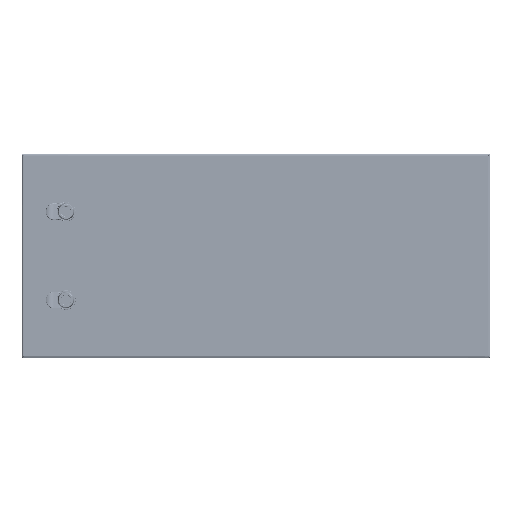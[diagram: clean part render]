
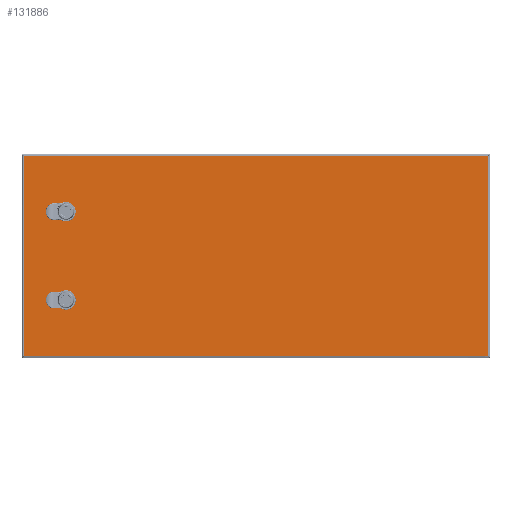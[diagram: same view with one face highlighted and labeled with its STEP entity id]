
A CAD part, top view. The second image highlights one B-rep face of the part: STEP entity #131886.
In plain terms, the highlighted planar face has unit normal (0, 0, 1).
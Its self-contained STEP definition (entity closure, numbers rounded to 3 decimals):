
#126016=CARTESIAN_POINT(' ',(389.389,172.733,269.003));
#126017=VERTEX_POINT(' ',#126016);
#126681=CARTESIAN_POINT(' ',(389.389,-166.667,269.003));
#126682=VERTEX_POINT(' ',#126681);
#127526=CARTESIAN_POINT(' ',(389.389,172.733,269.003));
#127531=DIRECTION(' ',(0.,-1.,0.));
#127536=VECTOR(' ',#127531,1.);
#127541=LINE('',#127526,#127536);
#127546=EDGE_CURVE(' ',#126017,#126682,#127541,.T.);
#129531=CARTESIAN_POINT(' ',(-399.011,-166.667,269.003));
#129532=VERTEX_POINT(' ',#129531);
#130071=CARTESIAN_POINT(' ',(-399.011,172.733,269.003));
#130072=VERTEX_POINT(' ',#130071);
#131756=DIRECTION(' ',(-0.,-0.,1.));
#131761=CARTESIAN_POINT(' ',(389.389,-166.667,269.003));
#131766=DIRECTION(' ',(0.,1.,0.));
#131771=AXIS2_PLACEMENT_3D(' ',#131761,#131756,#131766);
#131776=PLANE('NONE',#131771);
#131781=CARTESIAN_POINT(' ',(-399.011,-166.667,269.003));
#131786=DIRECTION(' ',(1.,0.,0.));
#131791=VECTOR(' ',#131786,1.);
#131796=LINE('',#131781,#131791);
#131801=EDGE_CURVE(' ',#129532,#126682,#131796,.T.);
#131806=ORIENTED_EDGE(' ',*,*,#131801,.T.);
#131811=ORIENTED_EDGE(' ',*,*,#127546,.F.);
#131816=CARTESIAN_POINT(' ',(389.389,172.733,269.003));
#131821=DIRECTION(' ',(-1.,0.,0.));
#131826=VECTOR(' ',#131821,1.);
#131831=LINE('',#131816,#131826);
#131836=EDGE_CURVE(' ',#126017,#130072,#131831,.T.);
#131841=ORIENTED_EDGE(' ',*,*,#131836,.T.);
#131846=CARTESIAN_POINT(' ',(-399.011,172.733,269.003));
#131851=DIRECTION(' ',(0.,-1.,0.));
#131856=VECTOR(' ',#131851,1.);
#131861=LINE('',#131846,#131856);
#131866=EDGE_CURVE(' ',#130072,#129532,#131861,.T.);
#131871=ORIENTED_EDGE(' ',*,*,#131866,.T.);
#131876=EDGE_LOOP(' ',(#131806,#131811,#131841,#131871));
#131881=FACE_OUTER_BOUND(' ',#131876,.T.);
#131886=ADVANCED_FACE('NONE',(#131881),#131776,.T.);
